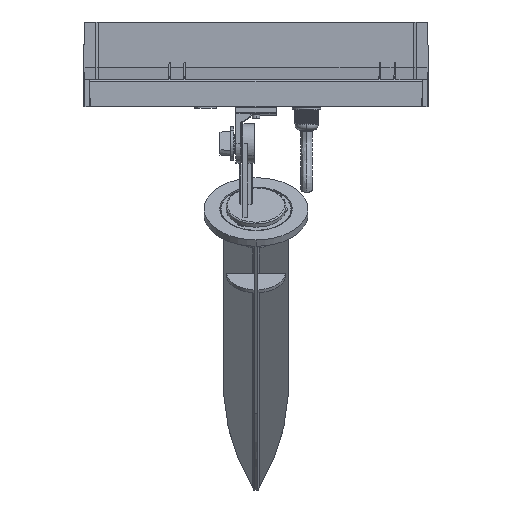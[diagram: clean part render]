
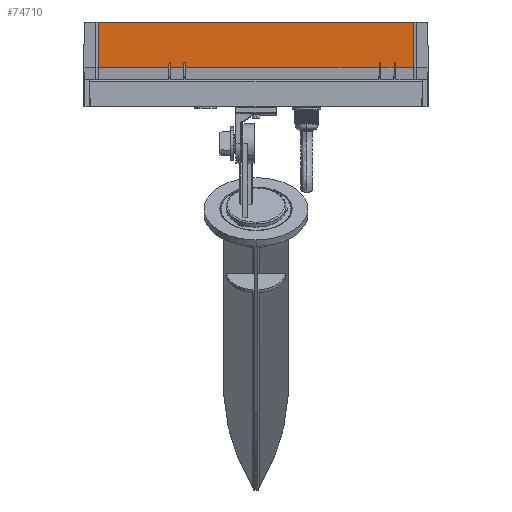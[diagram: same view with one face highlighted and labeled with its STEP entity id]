
A CAD part, top view. The second image highlights one B-rep face of the part: STEP entity #74710.
In plain terms, the highlighted planar face has unit normal (0, -0.029, 1) as drawn and (-1, 0, 0.029) by its records, which use the part's own axes.
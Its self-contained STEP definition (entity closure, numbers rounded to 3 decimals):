
#68274=DIRECTION('',(0.029,0.,1.));
#68275=VECTOR('',#68274,34.33);
#68276=CARTESIAN_POINT('',(21.909,-119.958,
0.));
#68277=LINE('',#68276,#68275);
#68286=DIRECTION('',(0.,1.,0.));
#68287=VECTOR('',#68286,239.958);
#68288=CARTESIAN_POINT('',(21.909,-119.958,
0.));
#68289=LINE('',#68288,#68287);
#68290=DIRECTION('',(0.,-1.,0.));
#68291=VECTOR('',#68290,13.733);
#68292=CARTESIAN_POINT('',(22.907,120.,34.316));
#68293=LINE('',#68292,#68291);
#68294=DIRECTION('',(0.029,-0.017,0.999));
#68295=VECTOR('',#68294,3.818);
#68296=CARTESIAN_POINT('',(22.796,105.201,30.5));
#68297=LINE('',#68296,#68295);
#68298=DIRECTION('',(0.,-1.,0.));
#68299=VECTOR('',#68298,10.268);
#68300=CARTESIAN_POINT('',(22.907,105.134,34.316));
#68301=LINE('',#68300,#68299);
#68302=DIRECTION('',(0.029,-0.017,0.999));
#68303=VECTOR('',#68302,3.818);
#68304=CARTESIAN_POINT('',(22.796,93.799,30.5));
#68305=LINE('',#68304,#68303);
#68306=DIRECTION('',(0.,-1.,0.));
#68307=VECTOR('',#68306,147.465);
#68308=CARTESIAN_POINT('',(22.907,93.733,34.316));
#68309=LINE('',#68308,#68307);
#68310=DIRECTION('',(0.029,-0.017,0.999));
#68311=VECTOR('',#68310,3.818);
#68312=CARTESIAN_POINT('',(22.796,-54.799,
30.5));
#68313=LINE('',#68312,#68311);
#68314=DIRECTION('',(0.,-1.,0.));
#68315=VECTOR('',#68314,10.268);
#68316=CARTESIAN_POINT('',(22.907,-54.866,
34.316));
#68317=LINE('',#68316,#68315);
#68318=DIRECTION('',(0.029,-0.017,0.999));
#68319=VECTOR('',#68318,3.818);
#68320=CARTESIAN_POINT('',(22.796,-66.201,
30.5));
#68321=LINE('',#68320,#68319);
#68322=DIRECTION('',(0.,-1.,0.));
#68323=VECTOR('',#68322,53.688);
#68324=CARTESIAN_POINT('',(22.907,-66.267,
34.315));
#68325=LINE('',#68324,#68323);
#68330=DIRECTION('',(-0.029,0.,-1.));
#68331=VECTOR('',#68330,34.33);
#68332=CARTESIAN_POINT('',(22.907,120.,34.316));
#68333=LINE('',#68332,#68331);
#68634=DIRECTION('',(0.029,0.017,0.999));
#68635=VECTOR('',#68634,3.818);
#68636=CARTESIAN_POINT('',(22.796,94.799,30.5));
#68637=LINE('',#68636,#68635);
#68654=DIRECTION('',(0.,1.,0.));
#68655=VECTOR('',#68654,1.);
#68656=CARTESIAN_POINT('',(22.796,93.799,30.5));
#68657=LINE('',#68656,#68655);
#69749=DIRECTION('',(0.,1.,0.));
#69750=VECTOR('',#69749,1.);
#69751=CARTESIAN_POINT('',(22.796,-66.201,
30.5));
#69752=LINE('',#69751,#69750);
#69769=DIRECTION('',(0.029,0.017,0.999));
#69770=VECTOR('',#69769,3.818);
#69771=CARTESIAN_POINT('',(22.796,-65.201,
30.5));
#69772=LINE('',#69771,#69770);
#69809=DIRECTION('',(0.,1.,0.));
#69810=VECTOR('',#69809,1.);
#69811=CARTESIAN_POINT('',(22.796,-54.799,
30.5));
#69812=LINE('',#69811,#69810);
#69825=DIRECTION('',(0.029,0.017,0.999));
#69826=VECTOR('',#69825,3.818);
#69827=CARTESIAN_POINT('',(22.796,-53.799,
30.5));
#69828=LINE('',#69827,#69826);
#70713=DIRECTION('',(0.,1.,0.));
#70714=VECTOR('',#70713,1.);
#70715=CARTESIAN_POINT('',(22.796,105.201,30.5));
#70716=LINE('',#70715,#70714);
#70729=DIRECTION('',(0.029,0.017,0.999));
#70730=VECTOR('',#70729,3.818);
#70731=CARTESIAN_POINT('',(22.796,106.201,30.5));
#70732=LINE('',#70731,#70730);
#71773=CARTESIAN_POINT('',(21.908,120.,
0.));
#71774=VERTEX_POINT('',#71773);
#71775=CARTESIAN_POINT('',(21.909,-119.958,
0.));
#71776=VERTEX_POINT('',#71775);
#71781=CARTESIAN_POINT('',(22.908,-119.955,
34.315));
#71782=VERTEX_POINT('',#71781);
#71785=CARTESIAN_POINT('',(22.907,120.,34.316));
#71786=VERTEX_POINT('',#71785);
#71787=CARTESIAN_POINT('',(22.907,106.267,34.316));
#71788=VERTEX_POINT('',#71787);
#71789=CARTESIAN_POINT('',(22.796,106.201,30.5));
#71790=VERTEX_POINT('',#71789);
#71791=CARTESIAN_POINT('',(22.796,105.201,30.5));
#71792=VERTEX_POINT('',#71791);
#71793=CARTESIAN_POINT('',(22.907,105.134,34.316));
#71794=VERTEX_POINT('',#71793);
#71795=CARTESIAN_POINT('',(22.907,94.866,34.316));
#71796=VERTEX_POINT('',#71795);
#71797=CARTESIAN_POINT('',(22.796,94.799,30.5));
#71798=VERTEX_POINT('',#71797);
#71799=CARTESIAN_POINT('',(22.796,93.799,30.5));
#71800=VERTEX_POINT('',#71799);
#71801=CARTESIAN_POINT('',(22.907,93.733,34.316));
#71802=VERTEX_POINT('',#71801);
#71803=CARTESIAN_POINT('',(22.907,-53.733,
34.316));
#71804=VERTEX_POINT('',#71803);
#71805=CARTESIAN_POINT('',(22.796,-53.799,
30.5));
#71806=VERTEX_POINT('',#71805);
#71807=CARTESIAN_POINT('',(22.796,-54.799,
30.5));
#71808=VERTEX_POINT('',#71807);
#71809=CARTESIAN_POINT('',(22.907,-54.866,
34.316));
#71810=VERTEX_POINT('',#71809);
#71811=CARTESIAN_POINT('',(22.907,-65.134,
34.316));
#71812=VERTEX_POINT('',#71811);
#71813=CARTESIAN_POINT('',(22.796,-65.201,
30.5));
#71814=VERTEX_POINT('',#71813);
#71815=CARTESIAN_POINT('',(22.796,-66.201,
30.5));
#71816=VERTEX_POINT('',#71815);
#71817=CARTESIAN_POINT('',(22.907,-66.267,
34.315));
#71818=VERTEX_POINT('',#71817);
#74665=CARTESIAN_POINT('',(22.907,-181.5,34.316));
#74666=DIRECTION('',(1.,0.,-0.029));
#74667=DIRECTION('',(-0.029,0.,-1.));
#74668=AXIS2_PLACEMENT_3D('',#74665,#74666,#74667);
#74669=PLANE('',#74668);
#74670=ORIENTED_EDGE('',*,*,#74655,.F.);
#74671=ORIENTED_EDGE('',*,*,#74627,.T.);
#74673=ORIENTED_EDGE('',*,*,#74672,.F.);
#74675=ORIENTED_EDGE('',*,*,#74674,.T.);
#74677=ORIENTED_EDGE('',*,*,#74676,.F.);
#74679=ORIENTED_EDGE('',*,*,#74678,.F.);
#74681=ORIENTED_EDGE('',*,*,#74680,.T.);
#74683=ORIENTED_EDGE('',*,*,#74682,.T.);
#74685=ORIENTED_EDGE('',*,*,#74684,.F.);
#74687=ORIENTED_EDGE('',*,*,#74686,.F.);
#74689=ORIENTED_EDGE('',*,*,#74688,.T.);
#74691=ORIENTED_EDGE('',*,*,#74690,.T.);
#74693=ORIENTED_EDGE('',*,*,#74692,.F.);
#74695=ORIENTED_EDGE('',*,*,#74694,.F.);
#74697=ORIENTED_EDGE('',*,*,#74696,.T.);
#74699=ORIENTED_EDGE('',*,*,#74698,.T.);
#74701=ORIENTED_EDGE('',*,*,#74700,.F.);
#74703=ORIENTED_EDGE('',*,*,#74702,.F.);
#74705=ORIENTED_EDGE('',*,*,#74704,.T.);
#74707=ORIENTED_EDGE('',*,*,#74706,.T.);
#74708=EDGE_LOOP('',(#74670,#74671,#74673,#74675,#74677,#74679,#74681,#74683,
#74685,#74687,#74689,#74691,#74693,#74695,#74697,#74699,#74701,#74703,#74705,
#74707));
#74709=FACE_OUTER_BOUND('',#74708,.F.);
#74627=EDGE_CURVE('',#71776,#71774,#68289,.T.);
#74655=EDGE_CURVE('',#71776,#71782,#68277,.T.);
#74672=EDGE_CURVE('',#71786,#71774,#68333,.T.);
#74674=EDGE_CURVE('',#71786,#71788,#68293,.T.);
#74676=EDGE_CURVE('',#71790,#71788,#70732,.T.);
#74678=EDGE_CURVE('',#71792,#71790,#70716,.T.);
#74680=EDGE_CURVE('',#71792,#71794,#68297,.T.);
#74682=EDGE_CURVE('',#71794,#71796,#68301,.T.);
#74684=EDGE_CURVE('',#71798,#71796,#68637,.T.);
#74686=EDGE_CURVE('',#71800,#71798,#68657,.T.);
#74688=EDGE_CURVE('',#71800,#71802,#68305,.T.);
#74690=EDGE_CURVE('',#71802,#71804,#68309,.T.);
#74692=EDGE_CURVE('',#71806,#71804,#69828,.T.);
#74694=EDGE_CURVE('',#71808,#71806,#69812,.T.);
#74696=EDGE_CURVE('',#71808,#71810,#68313,.T.);
#74698=EDGE_CURVE('',#71810,#71812,#68317,.T.);
#74700=EDGE_CURVE('',#71814,#71812,#69772,.T.);
#74702=EDGE_CURVE('',#71816,#71814,#69752,.T.);
#74704=EDGE_CURVE('',#71816,#71818,#68321,.T.);
#74706=EDGE_CURVE('',#71818,#71782,#68325,.T.);
#74710=ADVANCED_FACE('',(#74709),#74669,.F.);
